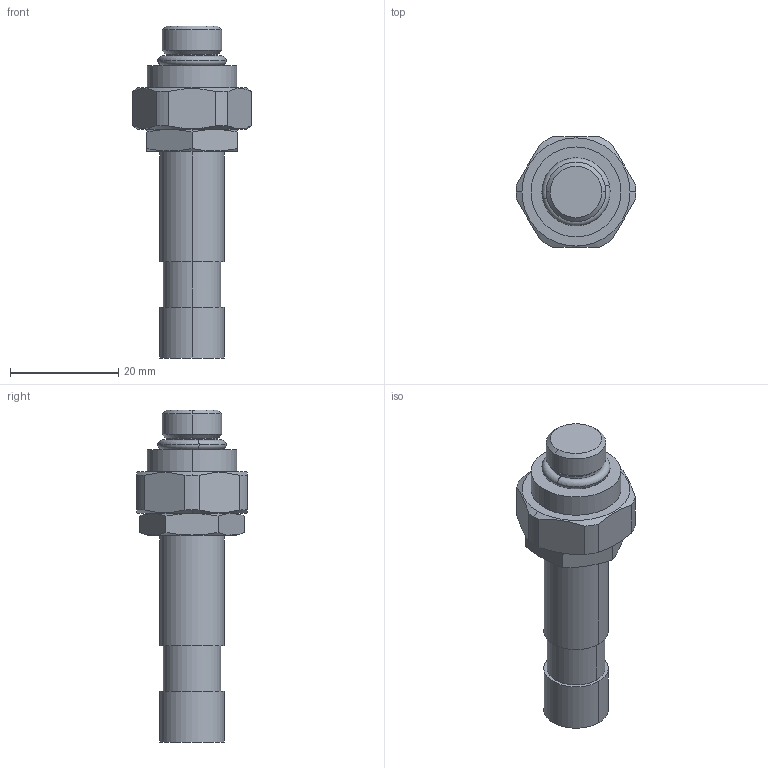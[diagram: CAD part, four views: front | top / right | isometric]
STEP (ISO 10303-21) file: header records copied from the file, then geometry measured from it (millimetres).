
FILE_DESCRIPTION((''),'2;1');
FILE_NAME('17L880-EN-K_PRT','2019-12-31T15:35:42',('qusrh3'),(''),'CREO PARAMETRIC BY PTC INC, 2019030','CREO PARAMETRIC BY PTC INC, 2019030','');
FILE_SCHEMA(('CONFIG_CONTROL_DESIGN'));
Length unit declared in the file: inch
Products named in the file (1): 17L880-EN-K_PRT
Bounding box: 22.1 x 20.32 x 61.21 mm (x, y, z)
Surface area: 4739.6 mm2 (no closed solid volume)
Topology: 0 solids, 8 shells, 54 faces, 124 edges, 78 vertices
Faces by surface type: plane 20, cylinder 18, cone 12, torus 4
Entity records: 1733 total; most frequent: CARTESIAN_POINT 484, DIRECTION 266, ORIENTED_EDGE 236, EDGE_CURVE 124, AXIS2_PLACEMENT_3D 112, VERTEX_POINT 78, CIRCLE 58, EDGE_LOOP 54
